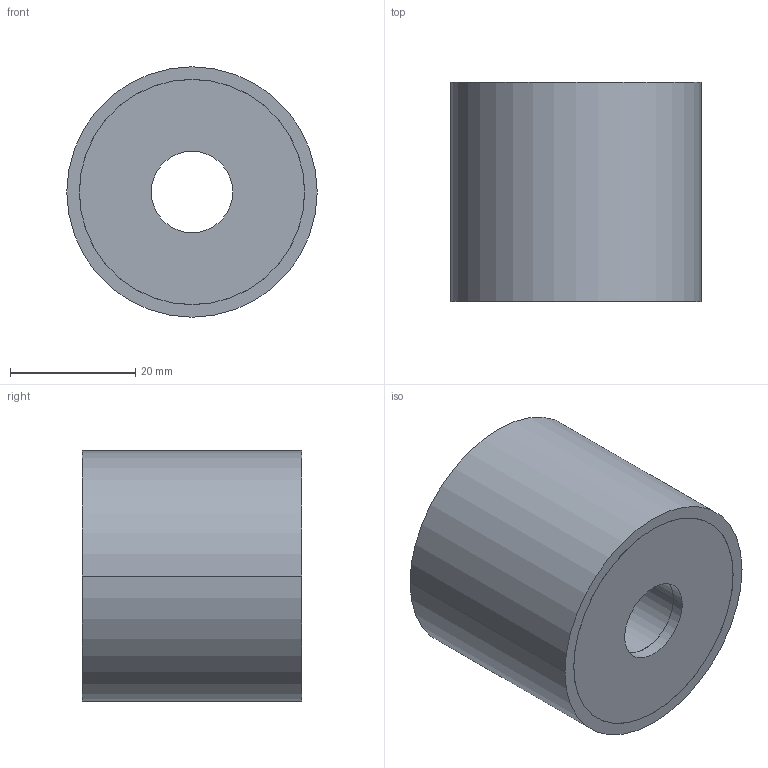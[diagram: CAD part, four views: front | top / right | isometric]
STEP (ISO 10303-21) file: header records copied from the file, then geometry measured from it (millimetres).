
FILE_DESCRIPTION (( 'STEP AP214' ), '1' );
FILE_NAME ('351-40-35-13-DD-70.step', '2025-07-23T10:11:11', ( '' ), ( '' ), 'SwSTEP 2.0', 'SolidWorks 2022', '' );
FILE_SCHEMA (( 'AUTOMOTIVE_DESIGN' ));
Length unit declared in the file: millimetre
Products named in the file (1): 351-40-35-13-DD-70
Bounding box: 40 x 35 x 40 mm (x, y, z)
Volume: 39336.6 mm3; surface area: 8081.6 mm2
Topology: 1 solids, 1 shells, 30 faces, 60 edges, 40 vertices
Faces by surface type: cylinder 20, plane 10
Entity records: 919 total; most frequent: DIRECTION 162, CARTESIAN_POINT 131, ORIENTED_EDGE 120, AXIS2_PLACEMENT_3D 71, EDGE_CURVE 60, EDGE_LOOP 40, VERTEX_POINT 40, CIRCLE 40
